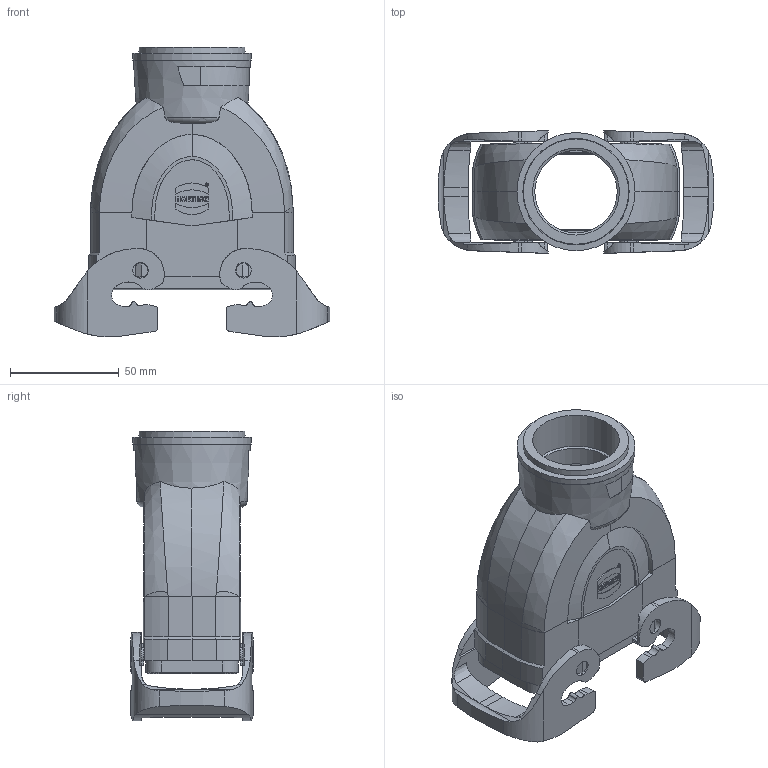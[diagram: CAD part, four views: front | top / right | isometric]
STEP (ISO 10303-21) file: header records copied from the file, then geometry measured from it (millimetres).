
FILE_DESCRIPTION(/* description */ (''),/* implementation_level */ '2;1');
FILE_NAME(/* name */ '100779363ugm000_d.stp',/* time_stamp */ '2022-03-12T08:03:13+01:00',/* author */ (''),/* organization */ (''),/* preprocessor_version */ 'ST-DEVELOPER v16.7',/* originating_system */ 'SIEMENS PLM Software NX 1911',/* authorisation */ '');
FILE_SCHEMA (('AUTOMOTIVE_DESIGN { 1 0 10303 214 3 1 1 1 }'));
Length unit declared in the file: millimetre
Products named in the file (1): 100779363ugm000_d
Bounding box: 127.17 x 56.57 x 133.59 mm (x, y, z)
Volume: 140252.9 mm3; surface area: 72566.7 mm2
Topology: 3 solids, 3 shells, 618 faces, 1731 edges, 1138 vertices
Faces by surface type: plane 363, cylinder 151, bspline 46, cone 40, extrusion 12, torus 6
Full cylindrical faces by diameter (mm): 1.006 x1, 1.477 x1, 3 x4, 3.4 x4, 3.5 x4, 7.2 x4, 38 x1, 40 x1, 54.4 x1
Entity records: 26634 total; most frequent: CARTESIAN_POINT 6999, ORIENTED_EDGE 3326, DIRECTION 2999, EDGE_CURVE 1663, VERTEX_POINT 1109, VECTOR 1021, LINE 1009, AXIS2_PLACEMENT_3D 989
